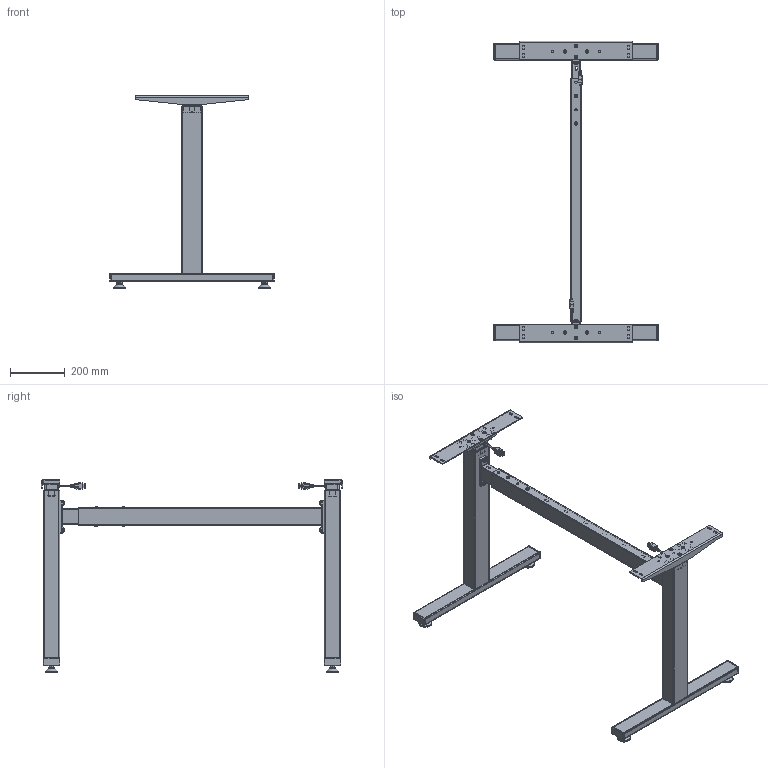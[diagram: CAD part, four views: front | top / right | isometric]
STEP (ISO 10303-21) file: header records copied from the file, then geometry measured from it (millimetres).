
FILE_DESCRIPTION(/* description */ ('Unknown'),/* implementation_level */ '2;1');
FILE_NAME(/* name */ 'Untergestell SA 2942 900-1550 XX XX_00-Eingefahren',/* time_stamp */ '2025-09-26T17:01:26+02:00',/* author */ ('Unknown'),/* organization */ ('Unknown'),/* preprocessor_version */ 'ST-DEVELOPER v20',/* originating_system */ 'Solid Edge',/* authorisation */ 'Unknown');
FILE_SCHEMA (('AUTOMOTIVE_DESIGN {1 0 10303 214 3 1 1}'));
Length unit declared in the file: millimetre
Products named in the file (33): Untergestell SA 2942 900-1550 XX XX; 921.00001_oa_0; 126.00168; Kabel Molex_kurz; 124.00129; 128.00085; 127.00446; 127.00446_Innenprofil; 127.00446_Flansch; 127.00447_oa_1; 127.00447_Aussenprofil; 127.00447_Anschweissplatte; 142.00077; 921.00001_oa_2; 127.00447_oa_3; 127.00632_oa_4; 096611~1; 096612~1; Sechskantmutter M6 DIN 934; Scheibe Ø6,4 DIN 125; Halbrundkopfschraube mit Innensechskant M8x12 ISO 7380-1; Scheibe Ø8,4 DIN 125; Halbrundkopfschraube mit Innensechskant und Bund M6x16 ISO 7380-2; 127.00073; 127.00069; 113.00006; 113.00006-ohne Mutter; Mutter M10; 142.00018; 142.00078; 142.00095; 115.00160; 127.00401
Assembly tree (75 placements, depth 4):
  Untergestell SA 2942 900-1550 XX XX
    921.00001_oa_0
      126.00168
      Kabel Molex_kurz
      124.00129
      128.00085
      127.00446
        127.00446_Innenprofil
        127.00446_Flansch
      127.00447_oa_1
        127.00447_Aussenprofil
        127.00447_Anschweissplatte
      142.00077  x4
    921.00001_oa_2
      126.00168
      Kabel Molex_kurz
      124.00129
      128.00085
      127.00446
        127.00446_Innenprofil
        127.00446_Flansch
      127.00447_oa_3
        127.00447_Aussenprofil
        127.00447_Anschweissplatte
      142.00077  x4
    127.00632_oa_4
      096611~1
      096612~1
      Sechskantmutter M6 DIN 934  x4
      Scheibe Ø6,4 DIN 125  x4
      Halbrundkopfschraube mit Innensechskant M8x12 ISO 7380-1  x4
      Scheibe Ø8,4 DIN 125  x4
      Halbrundkopfschraube mit Innensechskant und Bund M6x16 ISO 7380-2  x4
    127.00073  x2
      127.00069
      113.00006
        113.00006-ohne Mutter
        Mutter M10
      142.00018
      142.00078
      142.00095
    115.00160  x2
      127.00401
      142.00077
Bounding box: 600 x 1102 x 702 mm (x, y, z)
Volume: 2950451.5 mm3; surface area: 2511091.6 mm2
Topology: 86 solids, 86 shells, 2838 faces, 7118 edges, 4594 vertices
Faces by surface type: plane 1570, cylinder 788, torus 198, cone 142, bspline 120, sphere 20
Full cylindrical faces by diameter (mm): 3 x4, 3.2 x4, 4.5 x4, 4.917 x16, 5 x2, 6 x34, 6.4 x20, 6.5 x8, 6.647 x4, 7 x12, 8 x8, 8.376 x8, 8.5 x16, 9 x2, 9.5 x4, 10 x20, 11 x8, 12 x4, 13 x8, 13.6 x4, 14 x4, 15 x16, 16.8 x4, 19 x4, 24.5 x2, 25 x4, 29 x4, 35 x4, 39 x4, 47 x4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
Entity records: 42927 total; most frequent: CARTESIAN_POINT 8806, DIRECTION 5982, ORIENTED_EDGE 5812, EDGE_CURVE 2906, AXIS2_PLACEMENT_3D 2084, VERTEX_POINT 1968, LINE 1814, VECTOR 1814
